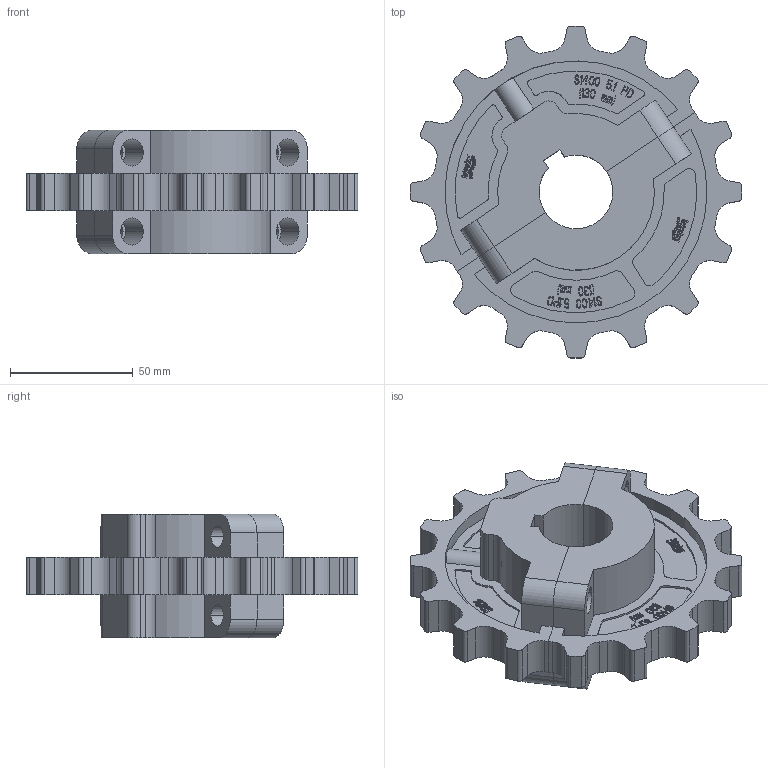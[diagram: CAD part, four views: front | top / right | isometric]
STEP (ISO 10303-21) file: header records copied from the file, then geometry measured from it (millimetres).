
FILE_DESCRIPTION((''),'2;1');
FILE_NAME('S1400_SPLIT_51_PILOT_ASM','2008-12-12T',('jmumphre'),(''),'PRO/ENGINEER BY PARAMETRIC TECHNOLOGY CORPORATION, 2008150','PRO/ENGINEER BY PARAMETRIC TECHNOLOGY CORPORATION, 2008150','');
FILE_SCHEMA(('CONFIG_CONTROL_DESIGN'));
Length unit declared in the file: inch
Products named in the file (3): S1400_SPLIT_51_PILOT_BOLT_AF0; S1400_SPLIT_51_PILOT_NUT_AF0; S1400_SPLIT_51_PILOT_ASM
Assembly tree (2 placements, depth 2):
  S1400_SPLIT_51_PILOT_ASM
    S1400_SPLIT_51_PILOT_BOLT_AF0
    S1400_SPLIT_51_PILOT_NUT_AF0
Bounding box: 135.05 x 135.05 x 50.29 mm (x, y, z)
Volume: 234519 mm3; surface area: 62971.3 mm2
Topology: 2 solids, 2 shells, 1785 faces, 5088 edges, 3392 vertices
Faces by surface type: plane 1389, cylinder 392, extrusion 4
Entity records: 58086 total; most frequent: CARTESIAN_POINT 10616, ORIENTED_EDGE 10176, DIRECTION 9428, EDGE_CURVE 5088, VECTOR 4296, LINE 4292, VERTEX_POINT 3392, AXIS2_PLACEMENT_3D 2566
